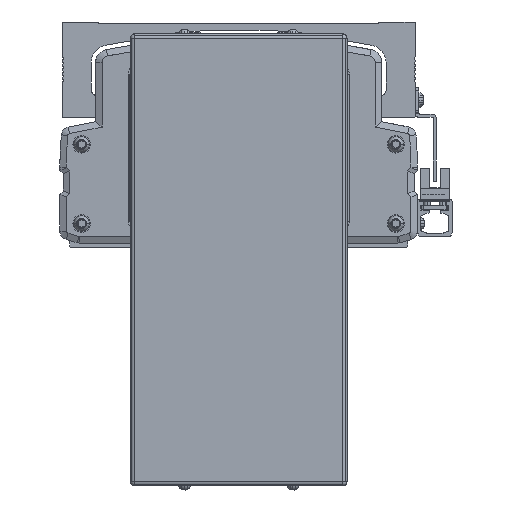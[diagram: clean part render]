
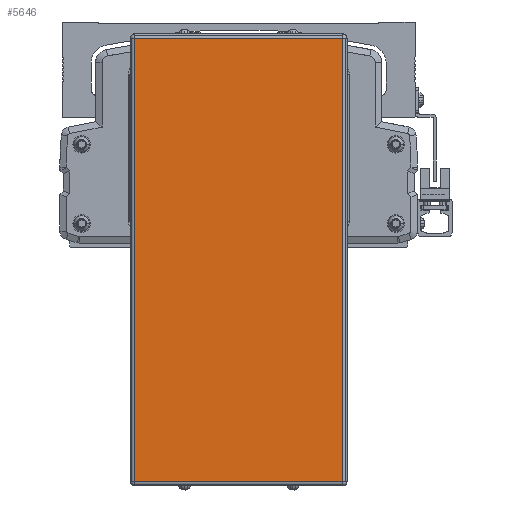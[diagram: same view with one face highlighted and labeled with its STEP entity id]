
A CAD part, front view. The second image highlights one B-rep face of the part: STEP entity #5646.
In plain terms, the highlighted planar face has unit normal (0, -1, 0).
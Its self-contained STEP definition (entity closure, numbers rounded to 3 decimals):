
#5646=ADVANCED_FACE('',(#12448),#12449,.T.);
#12448=FACE_OUTER_BOUND('',#21184,.T.);
#12449=PLANE('',#21185);
#21184=EDGE_LOOP('',(#38911,#38912,#38913,#38914));
#21185=AXIS2_PLACEMENT_3D('',#38915,#38916,#38917);
#38911=ORIENTED_EDGE('',*,*,#57111,.F.);
#38912=ORIENTED_EDGE('',*,*,#57112,.F.);
#38913=ORIENTED_EDGE('',*,*,#57113,.F.);
#38914=ORIENTED_EDGE('',*,*,#57114,.F.);
#38915=CARTESIAN_POINT('',(-600.,127.222,-57.8));
#38916=DIRECTION('',(0.,-1.0,0.));
#38917=DIRECTION('',(0.,0.,-1.0));
#57111=EDGE_CURVE('',#70312,#66186,#70313,.T.);
#57112=EDGE_CURVE('',#65990,#70312,#70314,.T.);
#57113=EDGE_CURVE('',#70315,#65990,#70316,.T.);
#57114=EDGE_CURVE('',#66186,#70315,#70317,.T.);
#65990=VERTEX_POINT('',#82489);
#66186=VERTEX_POINT('',#82774);
#70312=VERTEX_POINT('',#88772);
#70313=LINE('',#88773,#88774);
#70314=LINE('',#88775,#88776);
#70315=VERTEX_POINT('',#88777);
#70316=LINE('',#88778,#88779);
#70317=LINE('',#88780,#88781);
#82489=CARTESIAN_POINT('',(-648.,127.222,-160.1));
#82774=CARTESIAN_POINT('',(-552.,127.222,44.5));
#88772=CARTESIAN_POINT('',(-648.,127.222,44.5));
#88773=CARTESIAN_POINT('',(-600.,127.222,44.5));
#88774=VECTOR('',#101816,10.0);
#88775=CARTESIAN_POINT('',(-648.,127.222,-57.8));
#88776=VECTOR('',#101817,10.0);
#88777=CARTESIAN_POINT('',(-552.,127.222,-160.1));
#88778=CARTESIAN_POINT('',(-600.,127.222,-160.1));
#88779=VECTOR('',#101818,10.0);
#88780=CARTESIAN_POINT('',(-552.,127.222,-57.8));
#88781=VECTOR('',#101819,10.0);
#101816=DIRECTION('',(1.0,0.,0.));
#101817=DIRECTION('',(0.,0.,1.0));
#101818=DIRECTION('',(-1.0,0.,0.));
#101819=DIRECTION('',(0.,0.,-1.0));
